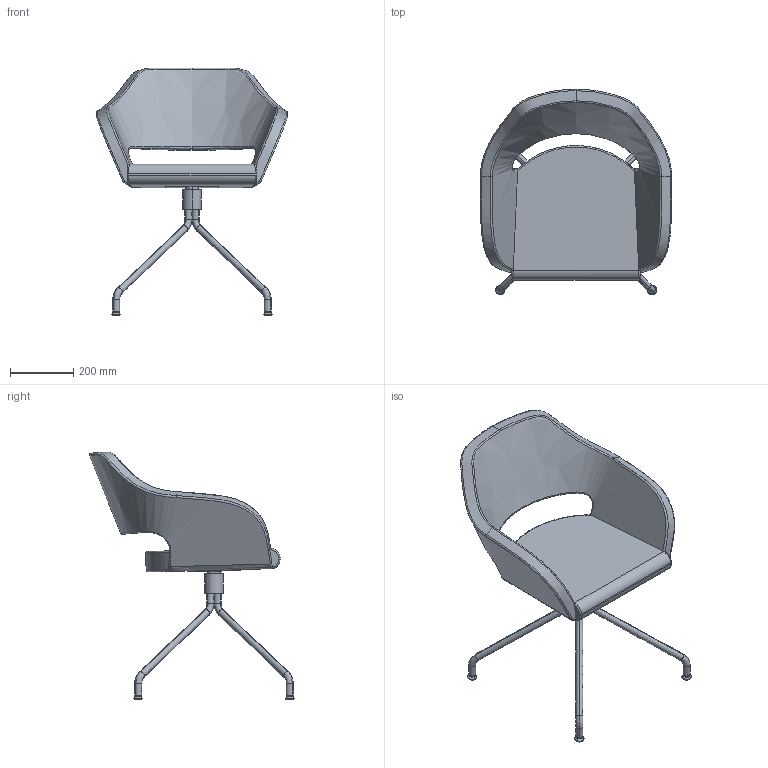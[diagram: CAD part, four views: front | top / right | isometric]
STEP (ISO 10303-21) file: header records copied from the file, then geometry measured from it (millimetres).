
FILE_DESCRIPTION(/* description */ (''),/* implementation_level */ '2;1');
FILE_NAME(/* name */ 'POLO_K~1',/* time_stamp */ '2016-04-13T12:42:37+02:00',/* author */ (''),/* organization */ (''),/* preprocessor_version */ 'ST-DEVELOPER v15',/* originating_system */ '',/* authorisation */ '');
FILE_SCHEMA (('CONFIG_CONTROL_DESIGN'));
Length unit declared in the file: millimetre
Products named in the file (1): Document
Bounding box: 604.9 x 649.18 x 784.62 mm (x, y, z)
Volume: 10135678.6 mm3; surface area: 1320400.4 mm2
Topology: 2 solids, 20 shells, 158 faces, 363 edges, 222 vertices
Faces by surface type: bspline 138, plane 20
Entity records: 8738 total; most frequent: CARTESIAN_POINT 6770, ORIENTED_EDGE 648, EDGE_CURVE 360, VERTEX_POINT 216, EDGE_LOOP 159, ADVANCED_FACE 158, FACE_OUTER_BOUND 158, B_SPLINE_CURVE_WITH_KNOTS 55
